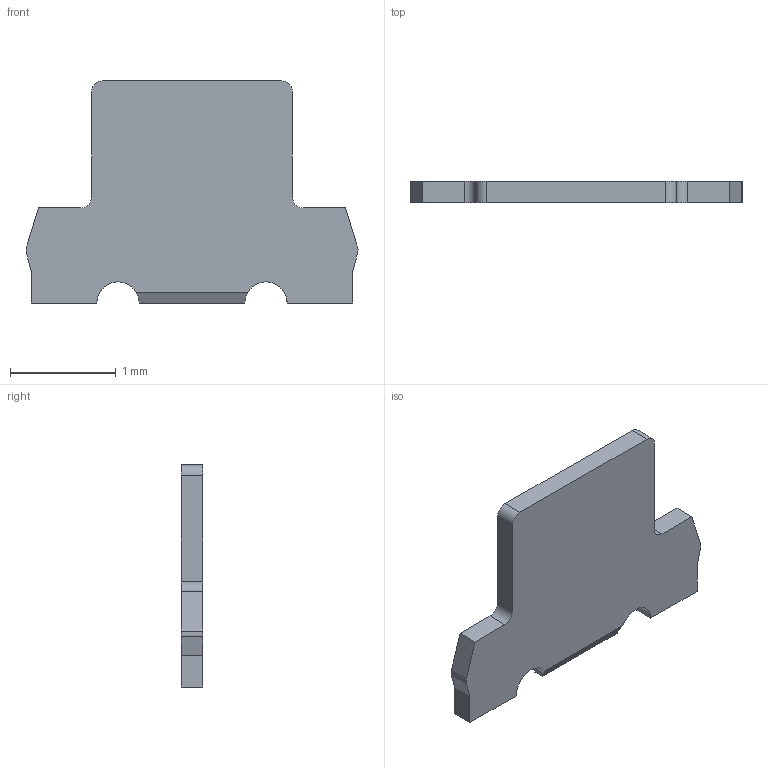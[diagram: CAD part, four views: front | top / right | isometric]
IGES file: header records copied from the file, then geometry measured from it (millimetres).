
Start section:  PTC IGES file: t-dsc20-900x00_1_prt.igs
Global section: file name: t-dsc20-900x00_1_prt.igs; native system: Pro/ENGINEER by Parametric Technology Corporation; preprocessor: 2006170; author: GRA; organization: Unknown; date: 20080630.105214; units: millimetre
Bounding box: 3.14 x 0.2 x 2.1 mm (x, y, z)
Surface area: 11.8 mm2 (no closed solid volume)
Topology: 0 solids, 0 shells, 26 faces, 144 edges, 144 vertices
Faces by surface type: bspline 18, revolution 8
